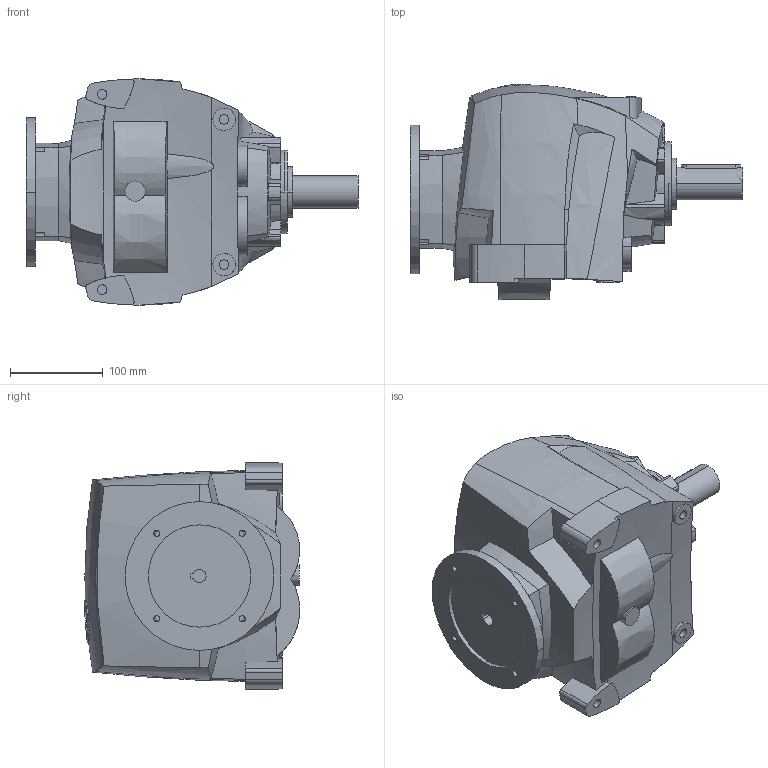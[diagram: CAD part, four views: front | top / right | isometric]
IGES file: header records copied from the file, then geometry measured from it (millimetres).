
Start section:  PTC IGES file: r35_unv_pam71.igs
Global section: file name: r35_unv_pam71.igs; native system: Pro/ENGINEER by Parametric Technology Corporation; preprocessor: 2008230; author: Luca; organization: Unknown; date: 20131105.110611; units: millimetre
Bounding box: 357 x 231.72 x 243.29 mm (x, y, z)
Volume: 8723612.3 mm3; surface area: 305504 mm2
Topology: 1 solids, 1 shells, 388 faces, 1098 edges, 743 vertices
Faces by surface type: revolution 166, bspline 130, extrusion 92
